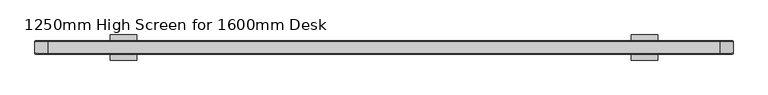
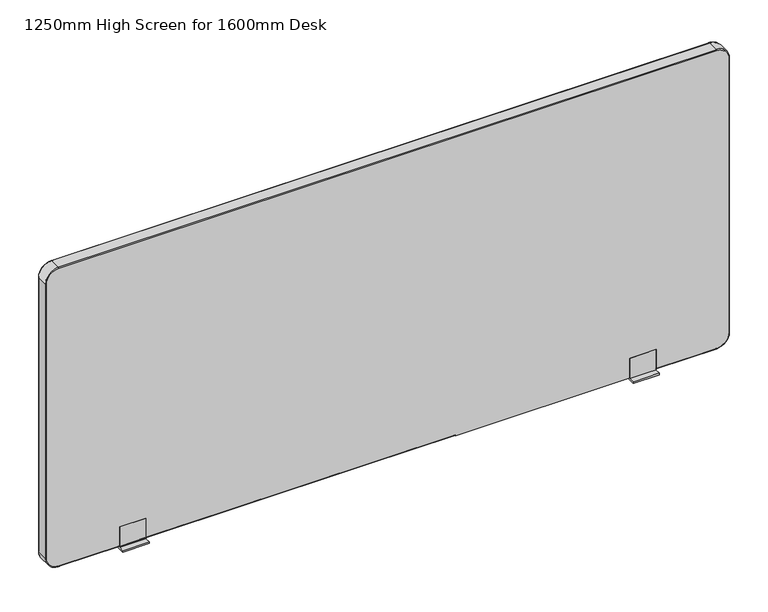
"""IFC4 building model written with IfcOpenShell, lengths in millimetres: furniture geometry, DBLTD_TheSenatorGroup_OffcDsks_Workbase_BackToBack_FabricScreen : 1250mm High Screen for 1600mm Desk."""

import ifcopenshell
import ifcopenshell.guid

model = None  # the IFC model being written
_history = None  # IfcOwnerHistory: only IFC2X3 demands one
_inside = {}  # id of a spatial element -> (the spatial element, [elements in it])
_under = {}  # id of a project, library or spatial element -> (it, [spatial elements below it])
_declared = {}  # id of a project -> (the project, [libraries it declares])
_typed = {}  # id of a type object -> (the type object, [elements of that type])
_made_of = {}  # id of a material, layer set ... -> (it, [elements and type objects made of it])


def new_model(schema):
    """Start an empty IFC model of exactly this schema.

    Asked for "IFC4X3", IfcOpenShell would pick the latest addendum, in which some entities
    have other attributes; the version numbers below select the first issue.
    IFC2X3 requires an IfcOwnerHistory on every rooted entity: one is made here for all.
    """
    global model, _history
    if schema == "IFC4X3":
        model = ifcopenshell.file(schema_version=(4, 3, 0, 0))
    else:
        model = ifcopenshell.file(schema=schema)
    _inside.clear()
    _under.clear()
    _declared.clear()
    _typed.clear()
    _made_of.clear()
    _history = None
    if model.schema == "IFC2X3":
        org = make("IfcOrganization", Name="unknown")
        user = make(
            "IfcPersonAndOrganization",
            ThePerson=make("IfcPerson", FamilyName="unknown"),
            TheOrganization=org,
        )
        app = make(
            "IfcApplication",
            ApplicationDeveloper=org,
            Version="unknown",
            ApplicationFullName="unknown",
            ApplicationIdentifier="unknown",
        )
        _history = make(
            "IfcOwnerHistory",
            OwningUser=user,
            OwningApplication=app,
            ChangeAction="ADDED",
            CreationDate=0,
        )
    return model


def make(cls, **values):
    """One entity of the class cls with the attributes given. An attribute that is None is left unset."""
    return model.create_entity(
        cls, **{name: value for name, value in values.items() if value is not None}
    )


def rooted(cls, **values):
    """An entity with a GlobalId (a new one), such as an element, a storey or a relation."""
    return make(cls, GlobalId=ifcopenshell.guid.new(), OwnerHistory=_history, **values)


def si_unit(unit_type, name, prefix=None):
    """IfcSIUnit, for example si_unit("LENGTHUNIT", "METRE", prefix="MILLI")."""
    return make("IfcSIUnit", UnitType=unit_type, Prefix=prefix, Name=name)


def assignment(units):
    """IfcUnitAssignment: the units of a project."""
    return None if units is None else make("IfcUnitAssignment", Units=units)


def point(xyz):
    """IfcCartesianPoint."""
    return None if xyz is None else make("IfcCartesianPoint", Coordinates=xyz)


def direction(xyz):
    """IfcDirection."""
    return None if xyz is None else make("IfcDirection", DirectionRatios=xyz)


def frame(location, z_axis=None, x_axis=None):
    """IfcAxis2Placement3D, a coordinate frame: its origin and axes. An axis left out is left unset."""
    return make(
        "IfcAxis2Placement3D",
        Location=point(location),
        Axis=direction(z_axis),
        RefDirection=direction(x_axis),
    )


def frame_2d(location, x_axis=None):
    """IfcAxis2Placement2D, a coordinate frame in the plane: its origin and x axis."""
    return make(
        "IfcAxis2Placement2D", Location=point(location), RefDirection=direction(x_axis)
    )


def origin():
    """The frame at (0, 0, 0) with its axes left unset."""
    return frame((0.0, 0.0, 0.0))


def place(relative_to, where):
    """IfcLocalPlacement: puts the frame where relative to a parent placement (None: the world)."""
    return make(
        "IfcLocalPlacement", PlacementRelTo=relative_to, RelativePlacement=where
    )


def context(
    kind, dimensions, precision=None, world=None, true_north=None, identifier=None
):
    """IfcGeometricRepresentationContext, for example the 3D "Model" context."""
    return make(
        "IfcGeometricRepresentationContext",
        ContextIdentifier=identifier,
        ContextType=kind,
        CoordinateSpaceDimension=dimensions,
        Precision=precision,
        WorldCoordinateSystem=world,
        TrueNorth=true_north,
    )


def project(units=None, contexts=None):
    """IfcProject with its units and contexts."""
    return rooted(
        "IfcProject",
        Name="project",
        RepresentationContexts=contexts,
        UnitsInContext=assignment(units),
    )


def spatial(cls, under=None, at=None, **own):
    """A site, building, storey or space (cls), placed at a placement, below another one or the project."""
    s = rooted(cls, ObjectPlacement=at, **own)
    if under is not None:
        _under.setdefault(under.id(), (under, []))[1].append(s)
    return s


def polyline(points):
    """IfcPolyline through the points."""
    return make("IfcPolyline", Points=[point(p) for p in points])


def circle_curve(where, radius):
    """IfcCircle in the frame where."""
    return make("IfcCircle", Position=where, Radius=radius)


def ellipse_curve(where, semi_axis1, semi_axis2):
    """IfcEllipse in the frame where."""
    return make(
        "IfcEllipse", Position=where, SemiAxis1=semi_axis1, SemiAxis2=semi_axis2
    )


def trimmed(basis, trim1, trim2, sense, master):
    """IfcTrimmedCurve: the piece of a basis curve between two trims."""
    return make(
        "IfcTrimmedCurve",
        BasisCurve=basis,
        Trim1=trim1,
        Trim2=trim2,
        SenseAgreement=sense,
        MasterRepresentation=master,
    )


def segment(curve, same_sense, transition):
    """IfcCompositeCurveSegment."""
    return make(
        "IfcCompositeCurveSegment",
        Transition=transition,
        SameSense=same_sense,
        ParentCurve=curve,
    )


def composite_curve(segments, self_intersect=None):
    """IfcCompositeCurve: segments joined end to end."""
    return make("IfcCompositeCurve", Segments=segments, SelfIntersect=self_intersect)


def outline(outer, holes=None, kind="AREA"):
    """IfcArbitraryClosedProfileDef: a profile drawn as a closed curve; with holes, ...WithVoids."""
    if holes is None:
        return make("IfcArbitraryClosedProfileDef", ProfileType=kind, OuterCurve=outer)
    return make(
        "IfcArbitraryProfileDefWithVoids",
        ProfileType=kind,
        OuterCurve=outer,
        InnerCurves=holes,
    )


def extrude(swept, where, along, depth):
    """IfcExtrudedAreaSolid: the profile swept, set in the frame where, extruded along a direction by depth."""
    return make(
        "IfcExtrudedAreaSolid",
        SweptArea=swept,
        Position=where,
        ExtrudedDirection=direction(along),
        Depth=depth,
    )


def faces_of(points, faces, orient=None, outer=None):
    """IfcFace entities. A face is a list of loops; a loop is a list of indices into points, from 0.

    orient and outer hold one flag for each loop. By default every Orientation is true, the
    first loop of a face is its IfcFaceOuterBound and the others are IfcFaceBound.
    """
    made = []
    for i, loops in enumerate(faces):
        bounds = []
        for j, loop in enumerate(loops):
            is_outer = j == 0 if outer is None else outer[i][j]
            bounds.append(
                make(
                    "IfcFaceOuterBound" if is_outer else "IfcFaceBound",
                    Bound=make("IfcPolyLoop", Polygon=[points[k] for k in loop]),
                    Orientation=True if orient is None else orient[i][j],
                )
            )
        made.append(make("IfcFace", Bounds=bounds))
    return made


def faceted_brep(points, faces, orient=None, outer=None, voids=None):
    """IfcFacetedBrep: a solid bounded by flat faces; with voids (closed shells), ...WithVoids."""
    shared = [point(p) for p in points]
    hull = make("IfcClosedShell", CfsFaces=faces_of(shared, faces, orient, outer))
    if voids is None:
        return make("IfcFacetedBrep", Outer=hull)
    return make(
        "IfcFacetedBrepWithVoids",
        Outer=hull,
        Voids=[
            make(cls, CfsFaces=faces_of(shared, fs, o, b)) for cls, fs, o, b in voids
        ],
    )


def shape(context_of_items, identifier, shape_type, items):
    """IfcShapeRepresentation: the items that make up one representation, for example the "Body"."""
    return make(
        "IfcShapeRepresentation",
        ContextOfItems=context_of_items,
        RepresentationIdentifier=identifier,
        RepresentationType=shape_type,
        Items=items,
    )


def source(mapping_origin, context_of_items, identifier, shape_type, items):
    """IfcRepresentationMap: a shape defined once, which mapped items show again and again."""
    return make(
        "IfcRepresentationMap",
        MappingOrigin=mapping_origin,
        MappedRepresentation=shape(context_of_items, identifier, shape_type, items),
    )


def transform(
    local_origin,
    x_axis=None,
    y_axis=None,
    z_axis=None,
    scale=None,
    scale2=None,
    scale3=None,
    uniform=True,
):
    """IfcCartesianTransformationOperator3D, or its non-uniform kind. x_axis, y_axis, z_axis: its Axis1, 2, 3."""
    if uniform:
        return make(
            "IfcCartesianTransformationOperator3D",
            Axis1=direction(x_axis),
            Axis2=direction(y_axis),
            LocalOrigin=point(local_origin),
            Scale=scale,
            Axis3=direction(z_axis),
        )
    return make(
        "IfcCartesianTransformationOperator3DnonUniform",
        Axis1=direction(x_axis),
        Axis2=direction(y_axis),
        LocalOrigin=point(local_origin),
        Scale=scale,
        Axis3=direction(z_axis),
        Scale2=scale2,
        Scale3=scale3,
    )


def mapped(mapping_source, mapping_target):
    """IfcMappedItem: shows the shape of a source again, moved by a transform."""
    return make(
        "IfcMappedItem", MappingSource=mapping_source, MappingTarget=mapping_target
    )


def made_of(thing, what):
    """Note that an element or type object is made of a material, layer set ...; save() writes the relation."""
    if what is not None:
        _made_of.setdefault(what.id(), (what, []))[1].append(thing)
    return thing


def element(
    cls,
    number,
    at=None,
    inside=None,
    cuts=None,
    type_object=None,
    material=None,
    context=None,
    identifier="Body",
    shape_type=None,
    held_by="IfcProductDefinitionShape",
    body=None,
    shapes=None,
    **own,
):
    """One element of the class cls, such as IfcWall. Its Tag is "e" and its number.

    at: its placement. inside: the storey or other place that contains it. cuts: it is an
    opening in that element (IfcRelVoidsElement). A single representation is given by context,
    identifier, shape_type and body (its items); several are given by shapes. held_by: the class
    of the entity that holds the representations. save() writes the other relations.
    """
    e = rooted(cls, Tag="e%d" % number, ObjectPlacement=at, **own)
    if body is not None:
        shapes = [shape(context, identifier, shape_type, body)]
    if shapes is not None:
        e.Representation = make(held_by, Representations=shapes)
    if inside is not None:
        _inside.setdefault(inside.id(), (inside, []))[1].append(e)
    if cuts is not None:
        rooted(
            "IfcRelVoidsElement", RelatingBuildingElement=cuts, RelatedOpeningElement=e
        )
    if type_object is not None:
        _typed.setdefault(type_object.id(), (type_object, []))[1].append(e)
    return made_of(e, material)


def aggregate(whole, parts):
    """IfcRelAggregates: a whole, such as a stair, and the parts it consists of."""
    return rooted("IfcRelAggregates", RelatingObject=whole, RelatedObjects=parts)


def save(model, path):
    """Write the relations noted so far, then the file.

    IfcRelAggregates (storeys below a building ...), IfcRelContainedInSpatialStructure (elements
    in a storey), IfcRelDefinesByType, IfcRelAssociatesMaterial and IfcRelDeclares: one each for
    every whole, place, type object, material and project.
    """
    for whole, parts in _under.values():
        aggregate(whole, parts)
    for where, things in _inside.values():
        rooted(
            "IfcRelContainedInSpatialStructure",
            RelatedElements=things,
            RelatingStructure=where,
        )
    for kind, things in _typed.values():
        rooted("IfcRelDefinesByType", RelatedObjects=things, RelatingType=kind)
    for what, things in _made_of.values():
        rooted("IfcRelAssociatesMaterial", RelatedObjects=things, RelatingMaterial=what)
    for by, libraries in _declared.values():
        rooted("IfcRelDeclares", RelatingContext=by, RelatedDefinitions=libraries)
    model.write(path)


def plane_surface(at):
    """IfcPlane: the flat surface through the origin of the frame at, square to its z axis."""
    return make("IfcPlane", Position=at)


def cylinder_surface(at, radius):
    """IfcCylindricalSurface: all points at the distance radius from the z axis of the frame at."""
    return make("IfcCylindricalSurface", Position=at, Radius=radius)


def revolved_surface(curve, axis_point, axis_direction):
    """IfcSurfaceOfRevolution: the curve turned about the line through axis_point along axis_direction."""
    return make(
        "IfcSurfaceOfRevolution",
        SweptCurve=make("IfcArbitraryOpenProfileDef", ProfileType="CURVE", Curve=curve),
        AxisPosition=make("IfcAxis1Placement", Location=point(axis_point), Axis=direction(axis_direction)),
    )


def advanced_brep(points, edges, surfaces, faces):
    """IfcAdvancedBrep: a solid bounded by faces that lie on surfaces and meet in shared edges.

    An edge is (start, end): straight between two places in points (the first is 0);
    or (start, end, curve); or (start, end, curve, False) where it runs against its curve.
    A face is (place in surfaces, loops), or (place, loops, False) where it looks against
    its surface's normal. A loop lists edges by number (the first is 1), with a minus sign
    where the edge is run from its end to its start. The first loop is the outer one.
    """
    corners = [point(p) for p in points]
    vertices = [make("IfcVertexPoint", VertexGeometry=c) for c in corners]
    made = []
    for start, end, *more in edges:
        made.append(
            make(
                "IfcEdgeCurve",
                EdgeStart=vertices[start],
                EdgeEnd=vertices[end],
                EdgeGeometry=more[0] if more else make("IfcPolyline", Points=[corners[start], corners[end]]),
                SameSense=more[1] if len(more) > 1 else True,
            )
        )
    hull = []
    for where, loops, *sense in faces:
        bounds = []
        for j, loop in enumerate(loops):
            ring = [make("IfcOrientedEdge", EdgeElement=made[abs(k) - 1], Orientation=k > 0) for k in loop]
            bounds.append(
                make(
                    "IfcFaceOuterBound" if j == 0 else "IfcFaceBound",
                    Bound=make("IfcEdgeLoop", EdgeList=ring),
                    Orientation=True,
                )
            )
        hull.append(make("IfcAdvancedFace", Bounds=bounds, FaceSurface=surfaces[where], SameSense=sense[0] if sense else True))
    return make("IfcAdvancedBrep", Outer=make("IfcClosedShell", CfsFaces=hull))


def furniture_1250mm_high_screen_for_1600mm_desk_9eece2b1(model_context):
    return source(origin(), model_context, "Body", "SolidModel", [
        faceted_brep([(631.5500717, 840.0117886, 573.0000126), (631.5500717, 840.0117886, 523.9999783), (631.5500717, 853.228166, 523.9999783), (631.5500717, 853.228166, 520.0), (631.5500717, 796.9721819, 520.0), (631.5500717, 796.9721819, 523.9999783), (631.5500717, 810.1885593, 523.9999783), (631.5500717, 810.1885593, 573.0000126), (691.5400495, 840.0117886, 573.0000126), (691.5400495, 810.1885593, 573.0000126), (691.5400495, 810.1885593, 526.6778838), (691.5400495, 810.1885593, 525.4999888), (691.5400495, 810.1885593, 523.9999783), (691.5400495, 796.9721819, 523.9999783), (691.5400495, 796.9721819, 520.0), (691.5400495, 853.228166, 520.0), (691.5400495, 853.228166, 523.9999783), (691.5400495, 840.0117886, 523.9999783), (691.5400495, 840.0117886, 525.4999888), (691.5400495, 840.0117886, 527.4999888)], [[[0, 1, 2, 3, 4, 5, 6, 7]], [[8, 9, 10, 11, 12, 13, 14, 15, 16, 17, 18, 19]], [[0, 7, 9, 8]], [[7, 6, 12, 11, 10, 9]], [[6, 5, 13, 12]], [[5, 4, 14, 13]], [[4, 3, 15, 14]], [[3, 2, 16, 15]], [[2, 1, 17, 16]], [[1, 0, 8, 19, 18, 17]]]),
        extrude(outline(composite_curve([segment(polyline([(573.0000126, 840.0117886), (573.0000126, 810.1885593), (526.6778838, 810.1885593)]), True, "CONTINUOUS"), segment(trimmed(circle_curve(frame_2d((527.4999888, 812.0117826)), 2.0), [point((526.6778838, 810.1885593))], [point((525.4999888, 812.0117826))], False, "CARTESIAN"), True, "CONTINUOUS"), segment(polyline([(525.4999888, 812.0117826), (525.4999888, 810.1885593), (523.9999783, 810.1885593), (523.9999783, 796.9721819), (520.0, 796.9721819), (520.0, 853.228166), (523.9999783, 853.228166), (523.9999783, 840.0117886), (525.4999888, 840.0117886), (525.4999888, 838.0117886)]), True, "CONTINUOUS"), segment(trimmed(circle_curve(frame_2d((527.4999888, 838.0117886)), 2.0), [point((525.4999888, 838.0117886))], [point((527.4999888, 840.0117886))], False, "CARTESIAN"), True, "CONTINUOUS"), segment(polyline([(527.4999888, 840.0117886), (573.0000126, 840.0117886)]), True, "CONTINUOUS")], self_intersect=False)), frame((-476.5500717, 0.0, 0.0), z_axis=(-1.0, 0.0, 0.0), x_axis=(0.0, 0.0, 1.0)), (0.0, 0.0, 1.0), 59.9899778),
        advanced_brep(
        [(-536.5400495, 810.0117826, 573.0000126), (-476.5500717, 810.0117826, 573.0000126), (-476.5500717, 810.0117826, 527.4999888), (231.5500717, 810.0117826, 527.4999888), (231.5500717, 810.0117826, 525.4999888), (631.5500717, 810.0117826, 525.4999888), (631.5500717, 810.0117826, 573.0000126), (691.5400495, 810.0117826, 573.0000126), (691.5400495, 810.0117826, 527.4999888), (830.5, 810.0117826, 527.4999888), (858.5, 810.0117826, 555.4999888), (858.5, 810.0117826, 1220.0), (830.5, 810.0117826, 1248.0), (-675.5, 810.0117826, 1248.0), (-703.5, 810.0117826, 1220.0), (-703.5, 810.0117826, 555.4999888), (-675.5, 810.0117826, 527.4999888), (-536.5400495, 810.0117826, 527.4999888), (691.5400495, 840.0117886, 573.0000126), (631.5500717, 840.0117886, 573.0000126), (631.5500717, 840.0117886, 525.4999888), (231.5500717, 840.0117886, 525.4999888), (231.5500717, 840.0117886, 527.4999888), (-476.5500717, 840.0117886, 527.4999888), (-476.5500717, 840.0117886, 573.0000126), (-536.5400495, 840.0117886, 573.0000126), (-536.5400495, 840.0117886, 527.4999888), (-675.5, 840.0117886, 527.4999888), (-703.5, 840.0117886, 555.4999888), (-703.5, 840.0117886, 1220.0), (-675.5, 840.0117886, 1248.0), (830.5, 840.0117886, 1248.0), (858.5, 840.0117886, 1220.0), (858.5, 840.0117886, 555.4999888), (830.5, 840.0117886, 527.4999888), (691.5400495, 840.0117886, 527.4999888), (830.5, 812.0117761, 1250.0), (830.5, 838.0117886, 1250.0), (-675.5, 838.0117886, 1250.0), (-675.5, 812.0117826, 1250.0), (-705.5, 838.0117886, 1220.0), (-705.5, 812.0117773, 1220.0), (-705.5, 838.0117886, 555.4999888), (-705.5, 812.0117826, 555.4999888), (-675.5, 838.0117886, 525.4999888), (-675.5, 812.0117828, 525.4999888), (691.5400495, 812.0117826, 525.4999888), (691.5400495, 838.0117886, 525.4999888), (830.5, 838.0117886, 525.4999888), (830.5, 812.0117826, 525.4999888), (860.5, 838.0117886, 555.4999888), (860.5, 812.0117811, 555.4999888), (860.5, 838.0117886, 1220.0), (860.5, 812.0117826, 1220.0), (-536.5400495, 838.0117886, 525.4999888), (-536.5400495, 812.0117826, 525.4999888), (-476.5500717, 838.0117886, 525.4999888), (-476.5500717, 812.0117826, 525.4999888), (231.5500717, 812.0117826, 525.4999888), (231.5500717, 838.0117886, 525.4999888)],
        [
            (0, 1),
            (1, 2),
            (2, 3),
            (3, 4),
            (4, 5),
            (5, 6),
            (6, 7),
            (7, 8),
            (8, 9),
            (9, 10, circle_curve(frame((830.5, 810.0117826, 555.4999888), z_axis=(0.0, -1.0, 0.0), x_axis=(0.0, 0.0, -1.0)), 28.0)),
            (10, 11),
            (11, 12, circle_curve(frame((830.5, 810.0117826, 1220.0), z_axis=(0.0, -1.0, 0.0), x_axis=(1.0, 0.0, 0.0)), 28.0)),
            (12, 13),
            (13, 14, circle_curve(frame((-675.5, 810.0117826, 1220.0), z_axis=(0.0, -1.0, 0.0), x_axis=(0.0, 0.0, 1.0)), 28.0)),
            (14, 15),
            (15, 16, circle_curve(frame((-675.5, 810.0117826, 555.4999888), z_axis=(0.0, -1.0, 0.0), x_axis=(-1.0, 0.0, 0.0)), 28.0)),
            (16, 17),
            (17, 0),
            (18, 19),
            (19, 20),
            (20, 21),
            (21, 22),
            (22, 23),
            (23, 24),
            (24, 25),
            (25, 26),
            (26, 27),
            (27, 28, circle_curve(frame((-675.5, 840.0117886, 555.4999888), z_axis=(0.0, 1.0, 0.0), x_axis=(-1.0, 0.0, 0.0)), 28.0)),
            (28, 29),
            (29, 30, circle_curve(frame((-675.5, 840.0117886, 1220.0), z_axis=(0.0, 1.0, 0.0), x_axis=(0.0, 0.0, 1.0)), 28.0)),
            (30, 31),
            (31, 32, circle_curve(frame((830.5, 840.0117886, 1220.0), z_axis=(0.0, 1.0, 0.0), x_axis=(1.0, 0.0, 0.0)), 28.0)),
            (32, 33),
            (33, 34, circle_curve(frame((830.5, 840.0117886, 555.4999888), z_axis=(0.0, 1.0, 0.0), x_axis=(0.0, 0.0, -1.0)), 28.0)),
            (34, 35),
            (35, 18),
            (36, 37),
            (37, 38),
            (38, 39),
            (39, 36),
            (38, 40, circle_curve(frame((-675.5, 838.0117886, 1220.0), z_axis=(0.0, -1.0, 0.0), x_axis=(1.0, 0.0, 0.0)), 30.0)),
            (40, 41),
            (41, 39, circle_curve(frame((-675.5, 812.0117826, 1220.0), z_axis=(0.0, 1.0, 0.0), x_axis=(1.0, 0.0, 0.0)), 30.0)),
            (40, 42),
            (42, 43),
            (43, 41),
            (42, 44, circle_curve(frame((-675.5, 838.0117886, 555.4999888), z_axis=(0.0, -1.0, 0.0), x_axis=(1.0, 0.0, 0.0)), 30.0)),
            (44, 45),
            (45, 43, circle_curve(frame((-675.5, 812.0117826, 555.4999888), z_axis=(0.0, 1.0, 0.0), x_axis=(1.0, 0.0, 0.0)), 30.0)),
            (46, 47),
            (47, 48),
            (48, 49),
            (49, 46),
            (48, 50, circle_curve(frame((830.5, 838.0117886, 555.4999888), z_axis=(0.0, -1.0, 0.0), x_axis=(1.0, 0.0, 0.0)), 30.0)),
            (50, 51),
            (51, 49, circle_curve(frame((830.5, 812.0117826, 555.4999888), z_axis=(0.0, 1.0, 0.0), x_axis=(1.0, 0.0, 0.0)), 30.0)),
            (50, 52),
            (52, 53),
            (53, 51),
            (36, 53, circle_curve(frame((830.5, 812.0117826, 1220.0), z_axis=(0.0, 1.0, 0.0), x_axis=(1.0, 0.0, 0.0)), 30.0)),
            (52, 37, circle_curve(frame((830.5, 838.0117886, 1220.0), z_axis=(0.0, -1.0, 0.0), x_axis=(1.0, 0.0, 0.0)), 30.0)),
            (44, 54),
            (54, 55),
            (55, 45),
            (25, 0),
            (17, 55, circle_curve(frame((-536.5400495, 812.0117826, 527.4999888), z_axis=(1.0, 0.0, 0.0), x_axis=(0.0, -1.0, 0.0)), 2.0)),
            (54, 26, circle_curve(frame((-536.5400495, 838.0117886, 527.4999888), z_axis=(1.0, 0.0, 0.0), x_axis=(0.0, -1.0, 0.0)), 2.0)),
            (24, 1),
            (23, 56, circle_curve(frame((-476.5500717, 838.0117886, 527.4999888), z_axis=(-1.0, 0.0, 0.0), x_axis=(0.0, -1.0, 0.0)), 2.0)),
            (56, 57),
            (57, 2, circle_curve(frame((-476.5500717, 812.0117826, 527.4999888), z_axis=(-1.0, 0.0, 0.0), x_axis=(0.0, -1.0, 0.0)), 2.0)),
            (20, 5),
            (4, 58),
            (58, 57),
            (56, 59),
            (59, 21),
            (19, 6),
            (18, 7),
            (35, 47, circle_curve(frame((691.5400495, 838.0117886, 527.4999888), z_axis=(-1.0, 0.0, 0.0), x_axis=(0.0, -1.0, 0.0)), 2.0)),
            (46, 8, circle_curve(frame((691.5400495, 812.0117826, 527.4999888), z_axis=(-1.0, 0.0, 0.0), x_axis=(0.0, -1.0, 0.0)), 2.0)),
            (49, 9, circle_curve(frame((830.5, 812.0117826, 527.4999888), z_axis=(-1.0, 0.0, 0.0), x_axis=(0.0, -1.0, 0.0)), 2.0)),
            (34, 48, circle_curve(frame((830.5, 838.0117886, 527.4999888), z_axis=(-1.0, 0.0, 0.0), x_axis=(0.0, -1.0, 0.0)), 2.0)),
            (51, 10, circle_curve(frame((858.5, 812.0117826, 555.4999888), z_axis=(0.0, 0.0, -1.0), x_axis=(0.0, -1.0, 0.0)), 2.0)),
            (33, 50, circle_curve(frame((858.5, 838.0117886, 555.4999888), z_axis=(0.0, 0.0, -1.0), x_axis=(0.0, -1.0, 0.0)), 2.0)),
            (53, 11, circle_curve(frame((858.5, 812.0117826, 1220.0), z_axis=(0.0, 0.0, -1.0), x_axis=(0.0, -1.0, 0.0)), 2.0)),
            (32, 52, circle_curve(frame((858.5, 838.0117886, 1220.0), z_axis=(0.0, 0.0, -1.0), x_axis=(0.0, -1.0, 0.0)), 2.0)),
            (36, 12, circle_curve(frame((830.5, 812.0117826, 1248.0), z_axis=(1.0, 0.0, 0.0), x_axis=(0.0, -1.0, 0.0)), 2.0)),
            (31, 37, circle_curve(frame((830.5, 838.0117886, 1248.0), z_axis=(1.0, 0.0, 0.0), x_axis=(0.0, -1.0, 0.0)), 2.0)),
            (39, 13, circle_curve(frame((-675.5, 812.0117826, 1248.0), z_axis=(1.0, 0.0, 0.0), x_axis=(0.0, -1.0, 0.0)), 2.0)),
            (30, 38, circle_curve(frame((-675.5, 838.0117886, 1248.0), z_axis=(1.0, 0.0, 0.0), x_axis=(0.0, -1.0, 0.0)), 2.0)),
            (41, 14, circle_curve(frame((-703.5, 812.0117826, 1220.0), z_axis=(0.0, 0.0, 1.0), x_axis=(0.0, -1.0, 0.0)), 2.0)),
            (29, 40, circle_curve(frame((-703.5, 838.0117886, 1220.0), z_axis=(0.0, 0.0, 1.0), x_axis=(0.0, -1.0, 0.0)), 2.0)),
            (43, 15, circle_curve(frame((-703.5, 812.0117826, 555.4999888), z_axis=(0.0, 0.0, 1.0), x_axis=(0.0, -1.0, 0.0)), 2.0)),
            (28, 42, circle_curve(frame((-703.5, 838.0117886, 555.4999888), z_axis=(0.0, 0.0, 1.0), x_axis=(0.0, -1.0, 0.0)), 2.0)),
            (45, 16, circle_curve(frame((-675.5, 812.0117826, 527.4999888), z_axis=(-1.0, 0.0, 0.0), x_axis=(0.0, -1.0, 0.0)), 2.0)),
            (27, 44, circle_curve(frame((-675.5, 838.0117886, 527.4999888), z_axis=(-1.0, 0.0, 0.0), x_axis=(0.0, -1.0, 0.0)), 2.0)),
            (3, 58, circle_curve(frame((231.5500717, 812.0117826, 527.4999888), z_axis=(1.0, 0.0, 0.0), x_axis=(0.0, -1.0, 0.0)), 2.0)),
            (59, 22, circle_curve(frame((231.5500717, 838.0117886, 527.4999888), z_axis=(1.0, 0.0, 0.0), x_axis=(0.0, -1.0, 0.0)), 2.0)),
        ],
        [
            plane_surface(frame((-675.5, 810.0117826, 1250.0), z_axis=(0.0, -1.0, 0.0), x_axis=(-1.0, 0.0, 0.0))),
            plane_surface(frame((-675.5, 840.0117886, 1250.0), z_axis=(0.0, 1.0, 0.0), x_axis=(1.0, 0.0, 0.0))),
            plane_surface(frame((830.5, 810.0117826, 1250.0), z_axis=(0.0, 0.0, 1.0), x_axis=(0.0, 1.0, 0.0))),
            cylinder_surface(frame((-675.5, 840.0117886, 1220.0), z_axis=(0.0, -1.0, 0.0), x_axis=(1.0, 0.0, 0.0)), 30.0),
            plane_surface(frame((-705.5, 810.0117826, 1220.0), z_axis=(-1.0, 0.0, 0.0), x_axis=(0.0, 1.0, 0.0))),
            cylinder_surface(frame((-675.5, 840.0117886, 555.4999888), z_axis=(0.0, -1.0, 0.0), x_axis=(1.0, 0.0, 0.0)), 30.0),
            plane_surface(frame((691.5400495, 810.0117826, 525.4999888), z_axis=(0.0, 0.0, -1.0), x_axis=(0.0, 1.0, 0.0))),
            cylinder_surface(frame((830.5, 840.0117886, 555.4999888), z_axis=(0.0, -1.0, 0.0), x_axis=(1.0, 0.0, 0.0)), 30.0),
            plane_surface(frame((860.5, 810.0117826, 555.4999888), z_axis=(1.0, 0.0, 0.0), x_axis=(0.0, 1.0, 0.0))),
            cylinder_surface(frame((830.5, 840.0117886, 1220.0), z_axis=(0.0, -1.0, 0.0), x_axis=(1.0, 0.0, 0.0)), 30.0),
            plane_surface(frame((-675.5, 810.0117826, 525.4999888), z_axis=(0.0, 0.0, -1.0), x_axis=(0.0, 1.0, 0.0))),
            plane_surface(frame((-536.5400495, 810.0117826, 525.4999888), z_axis=(1.0, 0.0, 0.0), x_axis=(0.0, 1.0, 0.0))),
            plane_surface(frame((-536.5400495, 810.0117826, 573.0000126), z_axis=(0.0, 0.0, -1.0), x_axis=(0.0, 1.0, 0.0))),
            plane_surface(frame((-476.5500717, 810.0117826, 573.0000126), z_axis=(-1.0, 0.0, 0.0), x_axis=(0.0, 1.0, 0.0))),
            plane_surface(frame((-476.5500717, 810.0117826, 525.4999888), z_axis=(0.0, 0.0, -1.0), x_axis=(0.0, 1.0, 0.0))),
            plane_surface(frame((631.5500717, 810.0117826, 525.4999888), z_axis=(1.0, 0.0, 0.0), x_axis=(0.0, 1.0, 0.0))),
            plane_surface(frame((631.5500717, 810.0117826, 573.0000126), z_axis=(0.0, 0.0, -1.0), x_axis=(0.0, 1.0, 0.0))),
            plane_surface(frame((691.5400495, 810.0117826, 573.0000126), z_axis=(-1.0, 0.0, 0.0), x_axis=(0.0, 1.0, 0.0))),
            cylinder_surface(frame((691.5400495, 812.0117826, 527.4999888), z_axis=(1.0, 0.0, 0.0), x_axis=(0.0, -1.0, 0.0)), 2.0),
            cylinder_surface(frame((691.5400495, 838.0117886, 527.4999888), z_axis=(1.0, 0.0, 0.0), x_axis=(0.0, -1.0, 0.0)), 2.0),
            revolved_surface(trimmed(ellipse_curve(frame((830.5, 812.0117826, 527.4999888), z_axis=(-1.0, 0.0, 0.0), x_axis=(0.0, -1.0, 0.0)), 2.0, 2.0), [point((830.5, 812.0117826, 525.4999888))], [point((830.5, 810.0117826, 527.4999888))], True, "CARTESIAN"), (830.5, 810.0117826, 555.4999888), (0.0, -1.0, 0.0)),
            revolved_surface(trimmed(ellipse_curve(frame((830.5, 838.0117886, 527.4999888), z_axis=(-1.0, 0.0, 0.0), x_axis=(0.0, -1.0, 0.0)), 2.0, 2.0), [point((830.5, 840.0117886, 527.4999888))], [point((830.5, 838.0117886, 525.4999888))], True, "CARTESIAN"), (830.5, 810.0117826, 555.4999888), (0.0, -1.0, 0.0)),
            cylinder_surface(frame((858.5, 812.0117826, 555.4999888), z_axis=(0.0, 0.0, 1.0), x_axis=(0.0, -1.0, 0.0)), 2.0),
            cylinder_surface(frame((858.5, 838.0117886, 555.4999888), z_axis=(0.0, 0.0, 1.0), x_axis=(0.0, -1.0, 0.0)), 2.0),
            revolved_surface(trimmed(ellipse_curve(frame((858.5, 812.0117826, 1220.0), z_axis=(0.0, 0.0, -1.0), x_axis=(0.0, -1.0, 0.0)), 2.0, 2.0), [point((860.5, 812.0117826, 1220.0))], [point((858.5, 810.0117826, 1220.0))], True, "CARTESIAN"), (830.5, 810.0117826, 1220.0), (0.0, -1.0, 0.0)),
            revolved_surface(trimmed(ellipse_curve(frame((858.5, 838.0117886, 1220.0), z_axis=(0.0, 0.0, -1.0), x_axis=(0.0, -1.0, 0.0)), 2.0, 2.0), [point((858.5, 840.0117886, 1220.0))], [point((860.5, 838.0117886, 1220.0))], True, "CARTESIAN"), (830.5, 810.0117826, 1220.0), (0.0, -1.0, 0.0)),
            cylinder_surface(frame((830.5, 812.0117826, 1248.0), z_axis=(-1.0, 0.0, 0.0), x_axis=(0.0, -1.0, 0.0)), 2.0),
            cylinder_surface(frame((830.5, 838.0117886, 1248.0), z_axis=(-1.0, 0.0, 0.0), x_axis=(0.0, -1.0, 0.0)), 2.0),
            revolved_surface(trimmed(ellipse_curve(frame((-675.5, 812.0117826, 1248.0), z_axis=(1.0, 0.0, 0.0), x_axis=(0.0, -1.0, 0.0)), 2.0, 2.0), [point((-675.5, 812.0117826, 1250.0))], [point((-675.5, 810.0117826, 1248.0))], True, "CARTESIAN"), (-675.5, 810.0117826, 1220.0), (0.0, -1.0, 0.0)),
            revolved_surface(trimmed(ellipse_curve(frame((-675.5, 838.0117886, 1248.0), z_axis=(1.0, 0.0, 0.0), x_axis=(0.0, -1.0, 0.0)), 2.0, 2.0), [point((-675.5, 840.0117886, 1248.0))], [point((-675.5, 838.0117886, 1250.0))], True, "CARTESIAN"), (-675.5, 810.0117826, 1220.0), (0.0, -1.0, 0.0)),
            cylinder_surface(frame((-703.5, 812.0117826, 1220.0), z_axis=(0.0, 0.0, -1.0), x_axis=(0.0, -1.0, 0.0)), 2.0),
            cylinder_surface(frame((-703.5, 838.0117886, 1220.0), z_axis=(0.0, 0.0, -1.0), x_axis=(0.0, -1.0, 0.0)), 2.0),
            revolved_surface(trimmed(ellipse_curve(frame((-703.5, 812.0117826, 555.4999888), z_axis=(0.0, 0.0, 1.0), x_axis=(0.0, -1.0, 0.0)), 2.0, 2.0), [point((-705.5, 812.0117826, 555.4999888))], [point((-703.5, 810.0117826, 555.4999888))], True, "CARTESIAN"), (-675.5, 810.0117826, 555.4999888), (0.0, -1.0, 0.0)),
            revolved_surface(trimmed(ellipse_curve(frame((-703.5, 838.0117886, 555.4999888), z_axis=(0.0, 0.0, 1.0), x_axis=(0.0, -1.0, 0.0)), 2.0, 2.0), [point((-703.5, 840.0117886, 555.4999888))], [point((-705.5, 838.0117886, 555.4999888))], True, "CARTESIAN"), (-675.5, 810.0117826, 555.4999888), (0.0, -1.0, 0.0)),
            plane_surface(frame((231.5500717, 810.0117826, 525.4999888), z_axis=(-1.0, 0.0, 0.0), x_axis=(0.0, 0.0, -1.0))),
            cylinder_surface(frame((-675.5, 812.0117826, 527.4999888), z_axis=(1.0, 0.0, 0.0), x_axis=(0.0, -1.0, 0.0)), 2.0),
            cylinder_surface(frame((-675.5, 838.0117886, 527.4999888), z_axis=(1.0, 0.0, 0.0), x_axis=(0.0, -1.0, 0.0)), 2.0),
        ],
        [
            (0, [[1, 2, 3, 4, 5, 6, 7, 8, 9, 10, 11, 12, 13, 14, 15, 16, 17, 18]]),
            (1, [[19, 20, 21, 22, 23, 24, 25, 26, 27, 28, 29, 30, 31, 32, 33, 34, 35, 36]]),
            (2, [[37, 38, 39, 40]]),
            (3, [[-39, 41, 42, 43]]),
            (4, [[-42, 44, 45, 46]]),
            (5, [[-45, 47, 48, 49]]),
            (6, [[50, 51, 52, 53]]),
            (7, [[-52, 54, 55, 56]]),
            (8, [[-55, 57, 58, 59]]),
            (9, [[-37, 60, -58, 61]]),
            (10, [[-48, 62, 63, 64]]),
            (11, [[65, -18, 66, -63, 67, -26]]),
            (12, [[-1, -65, -25, 68]]),
            (13, [[-68, -24, 69, 70, 71, -2]]),
            (14, [[72, -5, 73, 74, -70, 75, 76, -21]]),
            (15, [[-6, -72, -20, 77]]),
            (16, [[-7, -77, -19, 78]]),
            (17, [[-78, -36, 79, -50, 80, -8]]),
            (18, [[81, -9, -80, -53]]),
            (19, [[82, -51, -79, -35]]),
            (20, [[-81, -56, 83, -10]]),
            (21, [[-82, -34, 84, -54]]),
            (22, [[-83, -59, 85, -11]]),
            (23, [[-84, -33, 86, -57]]),
            (24, [[-85, -60, 87, -12]]),
            (25, [[-86, -32, 88, -61]]),
            (26, [[-87, -40, 89, -13]]),
            (27, [[-88, -31, 90, -38]]),
            (28, [[-89, -43, 91, -14]]),
            (29, [[-90, -30, 92, -41]]),
            (30, [[-91, -46, 93, -15]]),
            (31, [[-92, -29, 94, -44]]),
            (32, [[-93, -49, 95, -16]]),
            (33, [[-94, -28, 96, -47]]),
            (34, [[97, -73, -4]]),
            (34, [[98, -22, -76]]),
            (35, [[-95, -64, -66, -17]]),
            (35, [[-97, -3, -71, -74]]),
            (36, [[-96, -27, -67, -62]]),
            (36, [[-98, -75, -69, -23]]),
        ],
    ),
    ])


if __name__ == "__main__":
    model = new_model("IFC4")
    model_context = context("Model", 3, world=origin())
    ifc_project = project(units=[si_unit("LENGTHUNIT", "METRE", prefix="MILLI")], contexts=[model_context])
    site = spatial("IfcSite", under=ifc_project)
    building = spatial("IfcBuilding", under=site)
    placement = place(None, origin())
    furniture_1250mm_high_screen_for_1600mm_desk_shape = furniture_1250mm_high_screen_for_1600mm_desk_9eece2b1(model_context)
    element("IfcFurniture", 1, ObjectType="DBLTD_TheSenatorGroup_OffcDsks_Workbase_BackToBack_FabricScreen : 1250mm High Screen for 1600mm Desk", at=placement, inside=building, context=model_context, shape_type="MappedRepresentation", body=[
        mapped(furniture_1250mm_high_screen_for_1600mm_desk_shape, transform((0.0, 0.0, 0.0), x_axis=(1.0, 0.0, 0.0), y_axis=(0.0, 1.0, 0.0), z_axis=(0.0, 0.0, 1.0))),
    ])
    save(model, "model.ifc")
